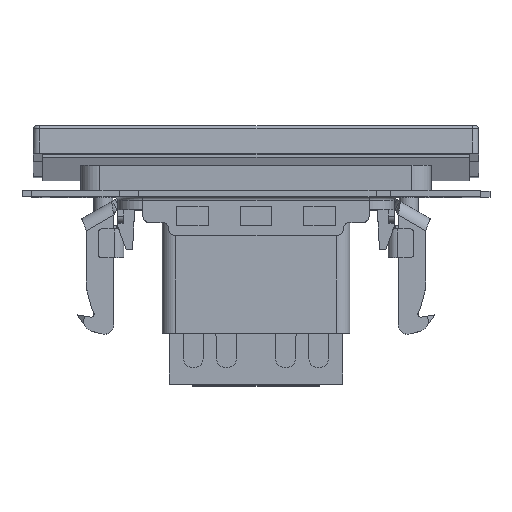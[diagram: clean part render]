
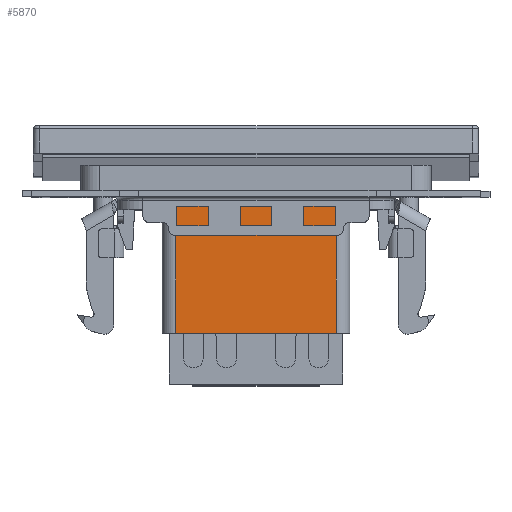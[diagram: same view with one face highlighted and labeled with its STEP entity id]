
A CAD part, top view. The second image highlights one B-rep face of the part: STEP entity #5870.
In plain terms, the highlighted planar face has unit normal (0, 0, 1).
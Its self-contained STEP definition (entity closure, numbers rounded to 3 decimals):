
#2546 = CARTESIAN_POINT ( 'NONE',  ( 27.294, 51.253, 66.003 ) ) ;
#2643 = VERTEX_POINT ( 'NONE', #2546 ) ;
#3794 = LINE ( 'NONE', #39000, #42460 ) ;
#5870 = ADVANCED_FACE ( 'NONE', ( #29335 ), #41537, .F. ) ;
#7953 = DIRECTION ( 'NONE',  ( 1., 0., 0. ) ) ;
#8548 = LINE ( 'NONE', #16824, #35465 ) ;
#11121 = VECTOR ( 'NONE', #48924, 1000. ) ;
#11335 = CARTESIAN_POINT ( 'NONE',  ( 52.494, 51.053, 66.003 ) ) ;
#14806 = CARTESIAN_POINT ( 'NONE',  ( 52.494, 51.253, 66.003 ) ) ;
#16824 = CARTESIAN_POINT ( 'NONE',  ( 52.494, 51.053, 66.003 ) ) ;
#18429 = CARTESIAN_POINT ( 'NONE',  ( 52.494, 28.853, 66.003 ) ) ;
#18957 = EDGE_CURVE ( 'NONE', #2643, #50486, #3794, .T. ) ;
#19183 = CARTESIAN_POINT ( 'NONE',  ( 52.494, 28.853, 66.003 ) ) ;
#20661 = LINE ( 'NONE', #52644, #52792 ) ;
#24616 = DIRECTION ( 'NONE',  ( -1., 0., 0. ) ) ;
#26556 = DIRECTION ( 'NONE',  ( 0., -1., 0. ) ) ;
#28166 = DIRECTION ( 'NONE',  ( 0., 0., -1. ) ) ;
#29335 = FACE_OUTER_BOUND ( 'NONE', #33564, .T. ) ;
#30170 = ORIENTED_EDGE ( 'NONE', *, *, #55123, .F. ) ;
#32523 = ORIENTED_EDGE ( 'NONE', *, *, #39305, .F. ) ;
#33564 = EDGE_LOOP ( 'NONE', ( #32523, #47890, #44926, #30170 ) ) ;
#34552 = DIRECTION ( 'NONE',  ( 0., -1., 0. ) ) ;
#35465 = VECTOR ( 'NONE', #26556, 1000. ) ;
#39000 = CARTESIAN_POINT ( 'NONE',  ( 27.294, 51.053, 66.003 ) ) ;
#39305 = EDGE_CURVE ( 'NONE', #2643, #50710, #20661, .T. ) ;
#40238 = EDGE_CURVE ( 'NONE', #50486, #57257, #45349, .T. ) ;
#41537 = PLANE ( 'NONE',  #48144 ) ;
#42460 = VECTOR ( 'NONE', #34552, 1000. ) ;
#44926 = ORIENTED_EDGE ( 'NONE', *, *, #40238, .T. ) ;
#45349 = LINE ( 'NONE', #18429, #11121 ) ;
#47890 = ORIENTED_EDGE ( 'NONE', *, *, #18957, .T. ) ;
#48144 = AXIS2_PLACEMENT_3D ( 'NONE', #11335, #28166, #24616 ) ;
#48924 = DIRECTION ( 'NONE',  ( 1., 0., 0. ) ) ;
#50486 = VERTEX_POINT ( 'NONE', #50543 ) ;
#50543 = CARTESIAN_POINT ( 'NONE',  ( 27.294, 28.853, 66.003 ) ) ;
#50710 = VERTEX_POINT ( 'NONE', #14806 ) ;
#52644 = CARTESIAN_POINT ( 'NONE',  ( 56.994, 51.253, 66.003 ) ) ;
#52792 = VECTOR ( 'NONE', #7953, 1000. ) ;
#55123 = EDGE_CURVE ( 'NONE', #50710, #57257, #8548, .T. ) ;
#57257 = VERTEX_POINT ( 'NONE', #19183 ) ;
